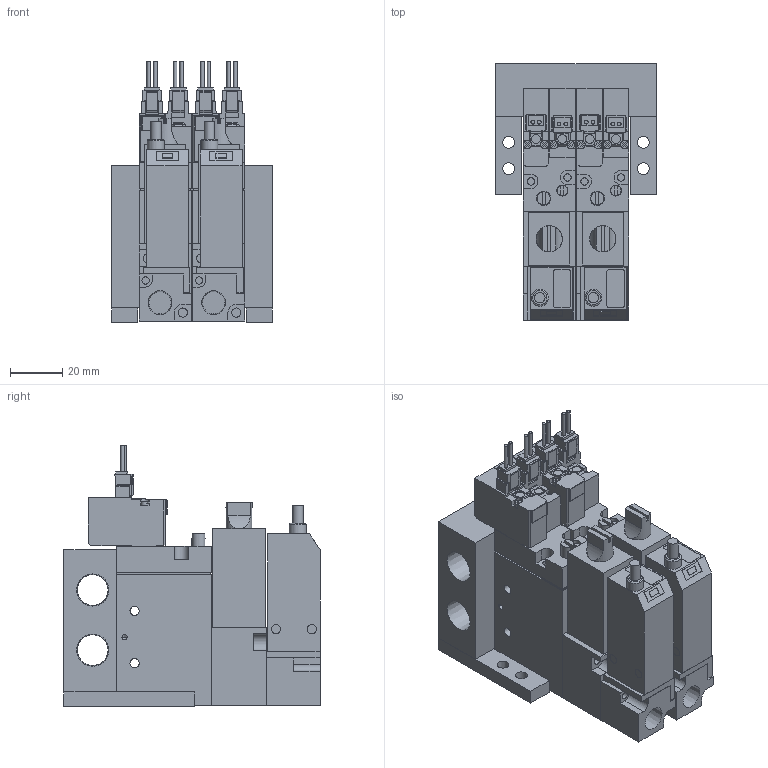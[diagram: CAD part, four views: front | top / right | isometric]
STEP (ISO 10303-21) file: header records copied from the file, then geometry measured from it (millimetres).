
FILE_DESCRIPTION(('STEP AP203'),'1');
FILE_NAME('BMPV32M2NAB25AL202.stp','2025-06-17T00:08:05',(' '),(' '),'Spatial InterOp 3D',' ',' ');
FILE_SCHEMA(('CONFIG_CONTROL_DESIGN'));
Length unit declared in the file: millimetre
Products named in the file (28): BMPV32M2NAB25AL202; MB BRACKET; Filter Assy; __; _____; MB02; Pressure sensor ABSL; ___ ___2; ___-2(Rc); ___; upper plate-A; ______; ____; VACUUM VALVE FUNCTION MPV42-A; UV280-4E
Assembly tree (27 placements, depth 2):
  BMPV32M2NAB25AL202
    MB BRACKET
    Filter Assy
    __
    _____
    MB02
    Filter Assy
    __
    _____
    Pressure sensor ABSL
    MB BRACKET
    ___ ___2
    ___-2(Rc)
    ___-2(Rc)
    ___ ___2
    Pressure sensor ABSL
    ___
    upper plate-A
    ______
    ____
    VACUUM VALVE FUNCTION MPV42-A
    ___
    upper plate-A
    ______
    ____
    VACUUM VALVE FUNCTION MPV42-A
    UV280-4E
    UV280-4E
Bounding box: 61.5 x 98 x 99.75 mm (x, y, z)
Volume: 255055.5 mm3; surface area: 86077.7 mm2
Topology: 27 solids, 27 shells, 823 faces, 2122 edges, 1404 vertices
Faces by surface type: plane 649, cylinder 152, cone 20, torus 2
Full cylindrical faces by diameter (mm): 1.4 x8, 1.8 x4, 2 x4, 2.5 x8, 2.8 x8, 3 x8, 3.5 x28, 4 x4, 4.2 x2, 4.5 x4, 5 x2, 5.5 x2, 6.5 x8, 8.522 x2, 11.776 x2
Entity records: 25670 total; most frequent: CARTESIAN_POINT 4353, DIRECTION 4038, ORIENTED_EDGE 3940, EDGE_CURVE 1970, LINE 1588, VECTOR 1588, VERTEX_POINT 1384, AXIS2_PLACEMENT_3D 1225
